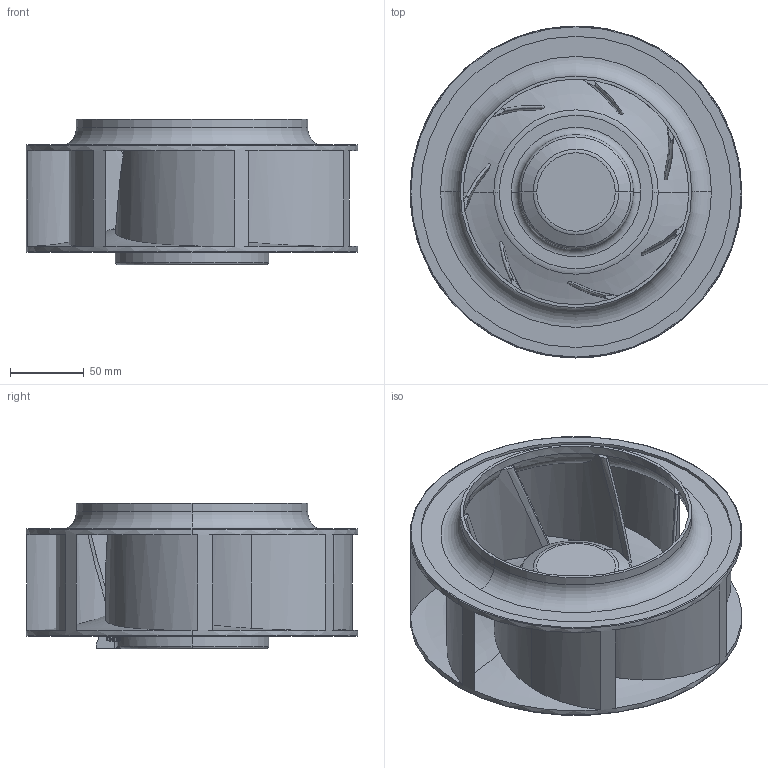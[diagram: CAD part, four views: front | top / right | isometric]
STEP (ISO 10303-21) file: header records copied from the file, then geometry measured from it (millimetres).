
FILE_DESCRIPTION (( 'STEP AP203' ), '1' );
FILE_NAME ('225x99_9TS.STEP', '2017-01-26T02:20:27', ( '' ), ( '' ), 'SwSTEP 2.0', 'SolidWorks 2016', '' );
FILE_SCHEMA (( 'CONFIG_CONTROL_DESIGN' ));
Length unit declared in the file: millimetre
Products named in the file (1): 225x99_9TS
Bounding box: 225 x 225 x 99 mm (x, y, z)
Volume: 680161.6 mm3; surface area: 260275.4 mm2
Topology: 1 solids, 1 shells, 177 faces, 450 edges, 277 vertices
Faces by surface type: cylinder 60, torus 44, plane 38, bspline 24, cone 11
Entity records: 7525 total; most frequent: CARTESIAN_POINT 3307, ORIENTED_EDGE 900, DIRECTION 867, EDGE_CURVE 450, AXIS2_PLACEMENT_3D 387, VERTEX_POINT 277, CIRCLE 233, EDGE_LOOP 193
